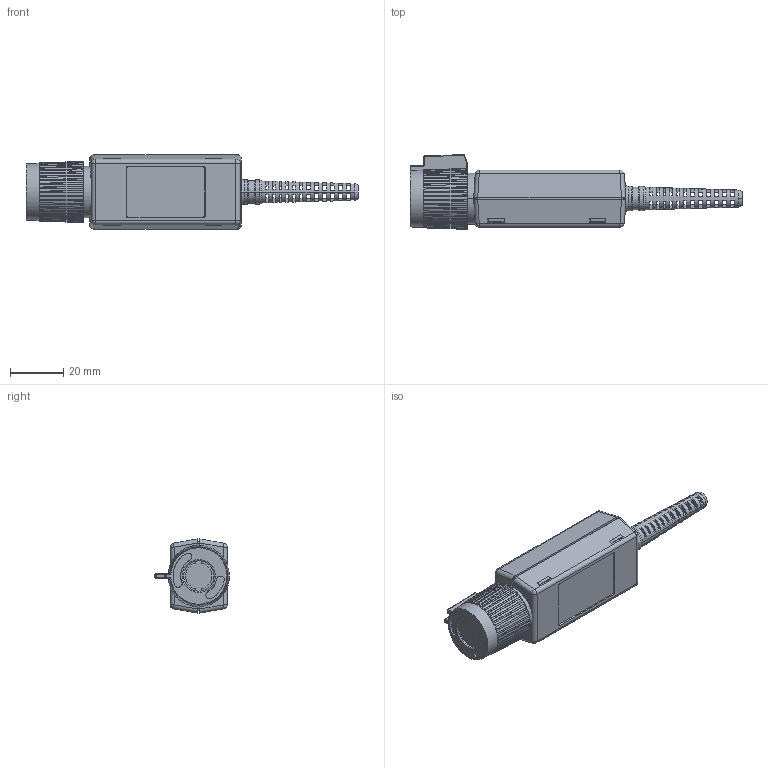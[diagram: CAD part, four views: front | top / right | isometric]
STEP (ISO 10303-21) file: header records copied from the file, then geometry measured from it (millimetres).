
FILE_DESCRIPTION((''),'2;1');
FILE_NAME('TCP202_ASM','2010-08-18T',('thnguyen'),(''),'PRO/ENGINEER BY PARAMETRIC TECHNOLOGY CORPORATION, 2008490','PRO/ENGINEER BY PARAMETRIC TECHNOLOGY CORPORATION, 2008490','');
FILE_SCHEMA(('CONFIG_CONTROL_DESIGN'));
Length unit declared in the file: inch
Products named in the file (8): COMPBOX_TOP_P6243; COMPBOX_BOTTEM_P6243; P6245_BNC_ETN; TEKPROBE_BNC_LOCK_ETN; BNC_TEKPROBE_ETN; BNC_SHELL_ETN; 200386100; TCP202_ASM
Assembly tree (8 placements, depth 2):
  TCP202_ASM
    COMPBOX_TOP_P6243
    COMPBOX_BOTTEM_P6243
    P6245_BNC_ETN
    TEKPROBE_BNC_LOCK_ETN  x2
    BNC_TEKPROBE_ETN
    BNC_SHELL_ETN
    200386100
Bounding box: 125.04 x 28.18 x 27.94 mm (x, y, z)
Volume: 21160.6 mm3; surface area: 25555.5 mm2
Topology: 8 solids, 8 shells, 1054 faces, 2835 edges, 1811 vertices
Faces by surface type: plane 737, cylinder 201, cone 64, sphere 27, bspline 17, torus 8
Entity records: 34815 total; most frequent: CARTESIAN_POINT 8808, ORIENTED_EDGE 5582, DIRECTION 5142, EDGE_CURVE 2791, AXIS2_PLACEMENT_3D 1792, VERTEX_POINT 1782, VECTOR 1558, LINE 1558
